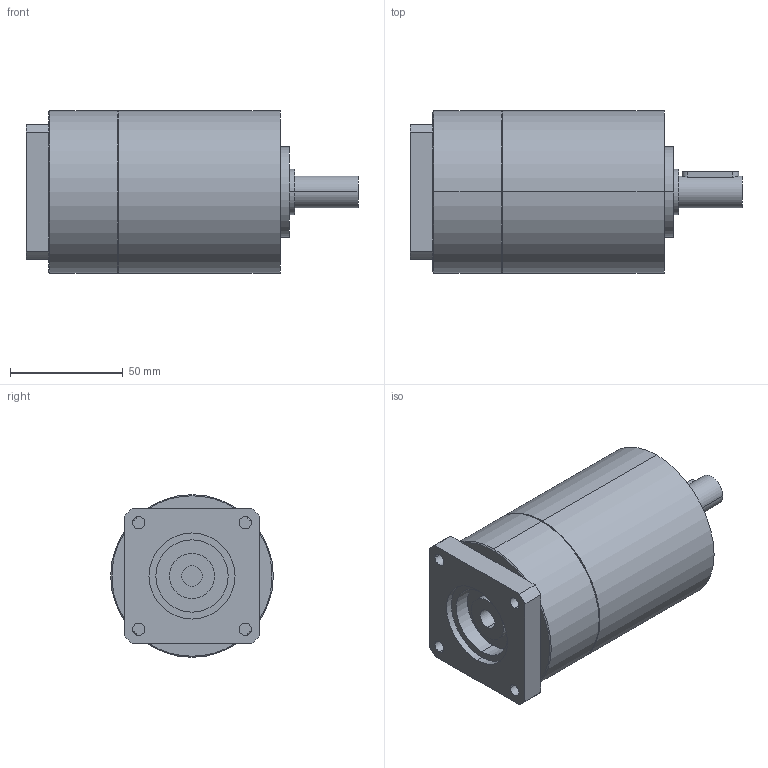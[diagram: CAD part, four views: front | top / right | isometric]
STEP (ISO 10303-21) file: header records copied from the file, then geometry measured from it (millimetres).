
FILE_DESCRIPTION(('CoCreate Modeling STEP Export'),'2;1');
FILE_NAME('GPT75_ig-9-12-16-20-25-28-35-40-50-70-100_14_B14T_9_P02.stp','2014-08-27T13:27:03',(''),(''),'CoCreate Modeling STEP processor for AP214 (Solid Model)','CoCreate Modeling 16.00C 25-Feb-2009 (C) Parametric Technology GmbH','');
FILE_SCHEMA(('AUTOMOTIVE_DESIGN { 1 0 10303 214 1 1 1 1 }'));
Length unit declared in the file: millimetre
Products named in the file (2): GPT75_ig-9-12-16-20-25-28-35-40-50-70-100_14_B14T_9_P02
Assembly tree (1 placements, depth 2):
  GPT75_ig-9-12-16-20-25-28-35-40-50-70-100_14_B14T_9_P02
    GPT75_ig-9-12-16-20-25-28-35-40-50-70-100_14_B14T_9_P02
Bounding box: 147 x 72 x 72 mm (x, y, z)
Volume: 451453.7 mm3; surface area: 39808.4 mm2
Topology: 1 solids, 1 shells, 80 faces, 198 edges, 129 vertices
Faces by surface type: cylinder 42, plane 34, cone 4
Entity records: 2353 total; most frequent: CARTESIAN_POINT 689, ORIENTED_EDGE 396, DIRECTION 276, EDGE_CURVE 198, VERTEX_POINT 129, AXIS2_PLACEMENT_3D 104, EDGE_LOOP 97, FACE_OUTER_BOUND 80
